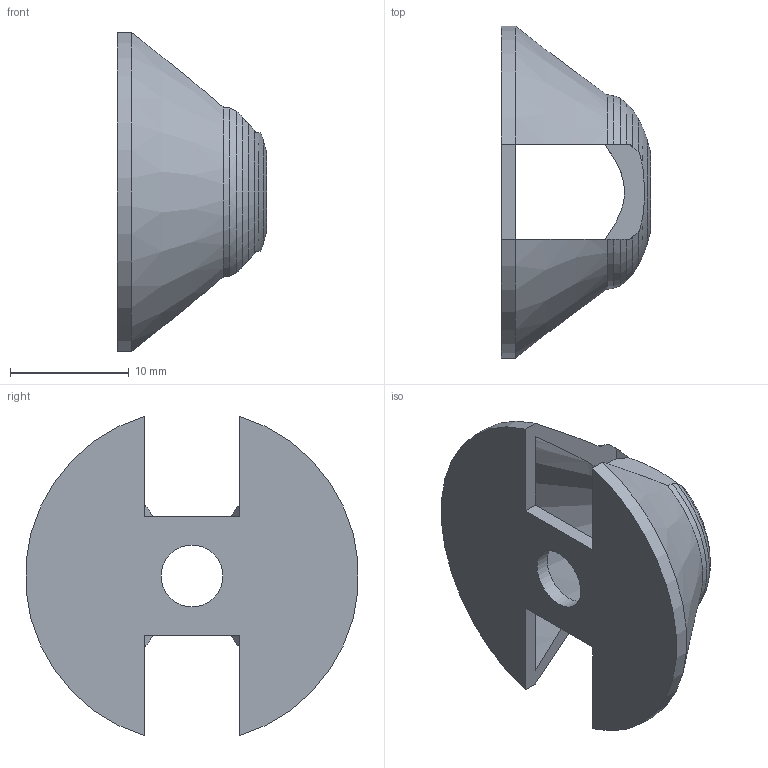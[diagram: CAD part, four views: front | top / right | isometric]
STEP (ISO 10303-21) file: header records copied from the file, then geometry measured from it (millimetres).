
FILE_DESCRIPTION(('SkyG Speed 90B - revision C6B-2 - 2026-10-08','SP-spinner'),'2;1');
FILE_NAME('SP-spinner_C6B-2','2026-10-08T01:12:38',('Author'),( 'Open CASCADE'),'Open CASCADE STEP processor 7.9','Open CASCADE 7.9' ,'Unknown');
FILE_SCHEMA(('AUTOMOTIVE_DESIGN { 1 0 10303 214 1 1 1 1 }'));
Length unit declared in the file: millimetre
Products named in the file (1): SP-spinner C6B-2
Bounding box: 12.59 x 27.9 x 26.83 mm (x, y, z)
Volume: 1336.9 mm3; surface area: 2342.8 mm2
Topology: 1 solids, 1 shells, 35 faces, 108 edges, 71 vertices
Faces by surface type: cone 18, plane 14, cylinder 3
Full cylindrical faces by diameter (mm): 5.2 x1
Entity records: 2768 total; most frequent: CARTESIAN_POINT 815, DIRECTION 344, ORIENTED_EDGE 216, PCURVE 216, DEFINITIONAL_REPRESENTATION 216, LINE 124, VECTOR 124, EDGE_CURVE 108
